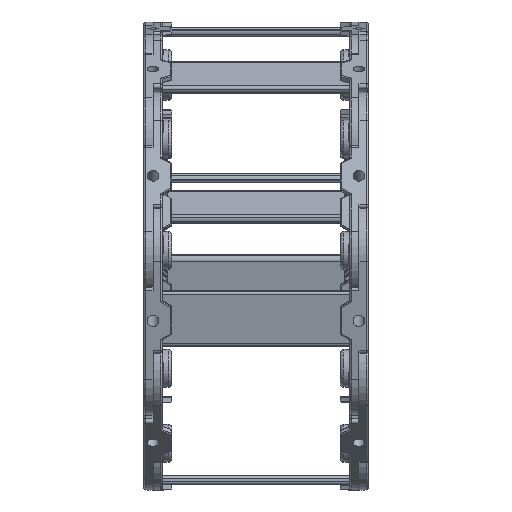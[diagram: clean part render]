
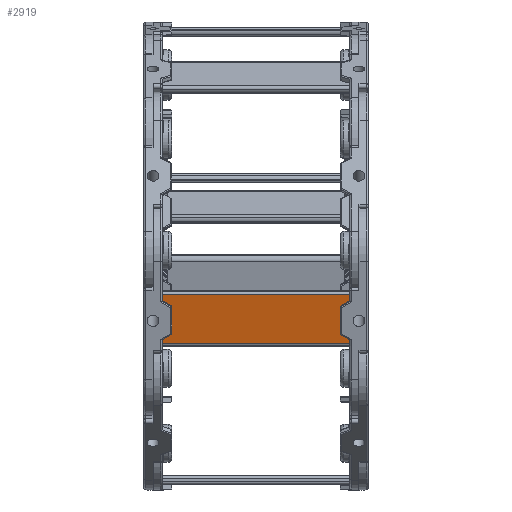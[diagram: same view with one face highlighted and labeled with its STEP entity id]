
A CAD part, front view. The second image highlights one B-rep face of the part: STEP entity #2919.
In plain terms, the highlighted planar face has unit normal (0, -0.97, -0.244) as drawn and (1, 0, 0) by its records, which use the part's own axes.
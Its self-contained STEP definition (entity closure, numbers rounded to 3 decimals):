
#2880=CARTESIAN_POINT('',(48.742,50.631,0.0));
#2881=DIRECTION('',(1.0,0.0,0.0));
#2882=DIRECTION('',(0.0,0.0,-1.0));
#2883=AXIS2_PLACEMENT_3D('',#2880,#2881,#2882);
#2884=PLANE('',#2883);
#2885=CARTESIAN_POINT('',(48.742,50.631,100.0));
#2886=VERTEX_POINT('',#2885);
#2887=CARTESIAN_POINT('',(48.742,23.635,100.0));
#2888=VERTEX_POINT('',#2887);
#2889=CARTESIAN_POINT('',(48.742,50.631,100.0));
#2890=DIRECTION('',(0.0,-1.0,0.0));
#2891=VECTOR('',#2890,26.996);
#2892=LINE('',#2889,#2891);
#2893=EDGE_CURVE('',#2886,#2888,#2892,.T.);
#2894=ORIENTED_EDGE('',*,*,#2893,.T.);
#2895=CARTESIAN_POINT('',(48.742,23.635,0.0));
#2896=VERTEX_POINT('',#2895);
#2897=CARTESIAN_POINT('',(48.742,23.635,0.0));
#2898=DIRECTION('',(0.0,0.0,1.0));
#2899=VECTOR('',#2898,100.0);
#2900=LINE('',#2897,#2899);
#2901=EDGE_CURVE('',#2896,#2888,#2900,.T.);
#2902=ORIENTED_EDGE('',*,*,#2901,.F.);
#2903=CARTESIAN_POINT('',(48.742,50.631,0.0));
#2904=VERTEX_POINT('',#2903);
#2905=CARTESIAN_POINT('',(48.742,23.635,0.0));
#2906=DIRECTION('',(0.0,1.0,0.0));
#2907=VECTOR('',#2906,26.996);
#2908=LINE('',#2905,#2907);
#2909=EDGE_CURVE('',#2896,#2904,#2908,.T.);
#2910=ORIENTED_EDGE('',*,*,#2909,.T.);
#2911=CARTESIAN_POINT('',(48.742,50.631,0.0));
#2912=DIRECTION('',(0.0,0.0,1.0));
#2913=VECTOR('',#2912,100.0);
#2914=LINE('',#2911,#2913);
#2915=EDGE_CURVE('',#2904,#2886,#2914,.T.);
#2916=ORIENTED_EDGE('',*,*,#2915,.T.);
#2917=EDGE_LOOP('',(#2894,#2902,#2910,#2916));
#2918=FACE_OUTER_BOUND('',#2917,.T.);
#2919=ADVANCED_FACE('',(#2918),#2884,.T.);
